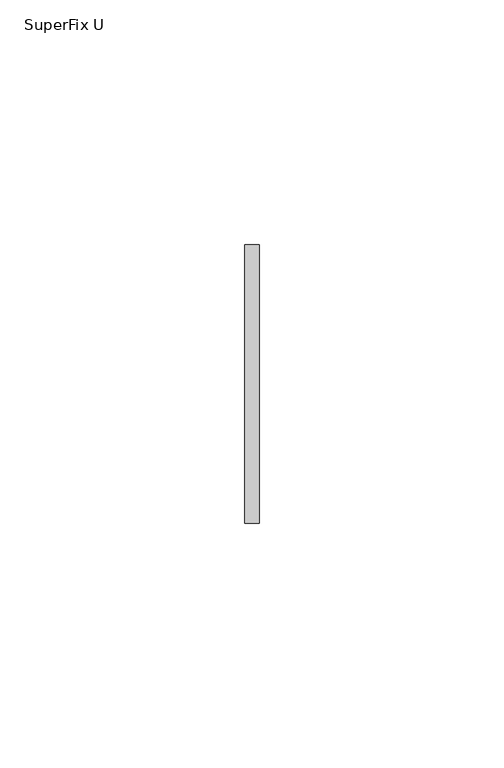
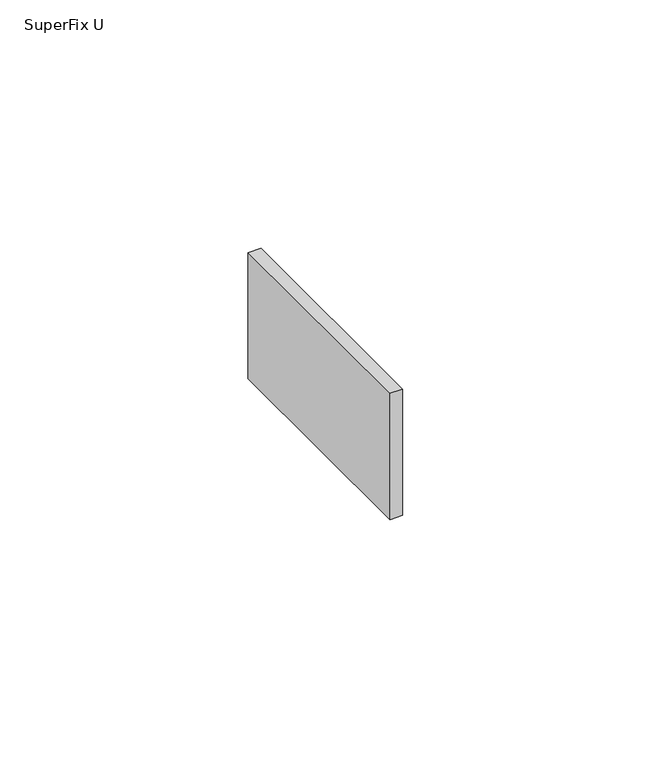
"""IFC4 building model written with IfcOpenShell, lengths in millimetres: valve geometry, Superfix U with bracket : SuperFix U."""

from ifc_helpers import new_model, si_unit, origin, origin_with_axes, place, context, project, spatial, polyline, outline, extrude, source, transform, mapped, element, save


def superfix_u_658711f6(model_context):
    return source(origin(), model_context, "Body", "SweptSolid", [
        extrude(outline(polyline([(324.5, -28.5), (321.5, -28.5), (321.5, 28.5), (324.5, 28.5), (324.5, -28.5)])), origin_with_axes(), (0.0, 0.0, 1.0), 31.0),
    ])


if __name__ == "__main__":
    model = new_model("IFC4")
    model_context = context("Model", 3, world=origin())
    ifc_project = project(units=[si_unit("LENGTHUNIT", "METRE", prefix="MILLI")], contexts=[model_context])
    site = spatial("IfcSite", under=ifc_project)
    building = spatial("IfcBuilding", under=site)
    placement = place(None, origin())
    superfix_u_shape = superfix_u_658711f6(model_context)
    element("IfcValve", 1, ObjectType="Superfix U with bracket : SuperFix U", at=placement, inside=building, context=model_context, shape_type="MappedRepresentation", body=[
        mapped(superfix_u_shape, transform((0.0, 0.0, 0.0), x_axis=(1.0, 0.0, 0.0), y_axis=(0.0, 1.0, 0.0), z_axis=(0.0, 0.0, 1.0))),
    ])
    save(model, "model.ifc")
